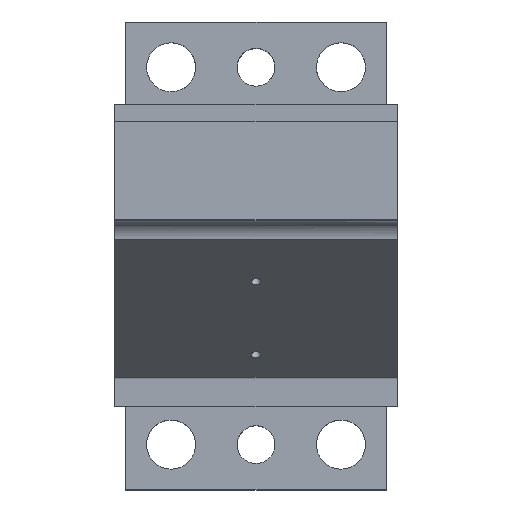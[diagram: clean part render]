
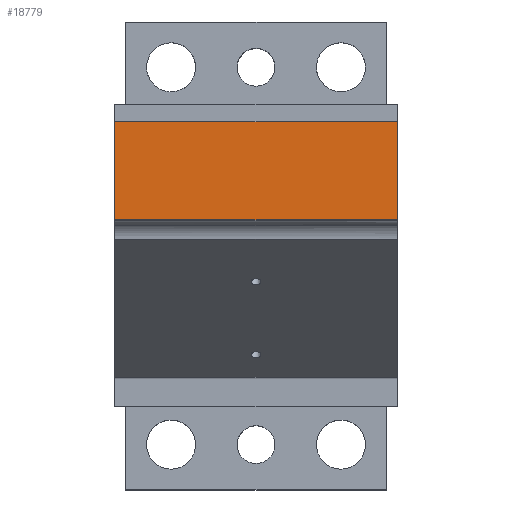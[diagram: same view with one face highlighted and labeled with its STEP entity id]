
A CAD part, top view. The second image highlights one B-rep face of the part: STEP entity #18779.
In plain terms, the highlighted planar face has unit normal (0, 0, 1).
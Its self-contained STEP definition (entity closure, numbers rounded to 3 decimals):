
#147 = CARTESIAN_POINT ( 'NONE',  ( -37.5, 13., 65. ) ) ;
#1081 = EDGE_CURVE ( 'NONE', #22080, #19552, #18876, .T. ) ;
#1837 = EDGE_LOOP ( 'NONE', ( #19668, #4192, #13400, #13543 ) ) ;
#1915 = AXIS2_PLACEMENT_3D ( 'NONE', #4406, #7557, #16092 ) ;
#2763 = LINE ( 'NONE', #9448, #20453 ) ;
#3823 = DIRECTION ( 'NONE',  ( 0., 1., 0. ) ) ;
#3830 = EDGE_CURVE ( 'NONE', #18903, #16609, #2763, .T. ) ;
#4192 = ORIENTED_EDGE ( 'NONE', *, *, #1081, .F. ) ;
#4406 = CARTESIAN_POINT ( 'NONE',  ( -41.25, -1.3, 65. ) ) ;
#4531 = CARTESIAN_POINT ( 'NONE',  ( 0., 26., 65. ) ) ;
#6141 = VECTOR ( 'NONE', #19878, 1000. ) ;
#6306 = CARTESIAN_POINT ( 'NONE',  ( -37.5, 26., 65. ) ) ;
#7557 = DIRECTION ( 'NONE',  ( 0., 0., 1. ) ) ;
#7737 = DIRECTION ( 'NONE',  ( -1., 0., 0. ) ) ;
#7804 = DIRECTION ( 'NONE',  ( 0., 1., 0. ) ) ;
#8555 = CARTESIAN_POINT ( 'NONE',  ( -37.5, 0., 65. ) ) ;
#9119 = EDGE_CURVE ( 'NONE', #22080, #18903, #21934, .T. ) ;
#9432 = LINE ( 'NONE', #4531, #16412 ) ;
#9448 = CARTESIAN_POINT ( 'NONE',  ( 37.5, 13., 65. ) ) ;
#9478 = PLANE ( 'NONE',  #1915 ) ;
#13084 = CARTESIAN_POINT ( 'NONE',  ( 0., 0., 65. ) ) ;
#13125 = EDGE_CURVE ( 'NONE', #16609, #19552, #9432, .T. ) ;
#13385 = FACE_OUTER_BOUND ( 'NONE', #1837, .T. ) ;
#13400 = ORIENTED_EDGE ( 'NONE', *, *, #9119, .T. ) ;
#13543 = ORIENTED_EDGE ( 'NONE', *, *, #3830, .T. ) ;
#16092 = DIRECTION ( 'NONE',  ( 1., 0., 0. ) ) ;
#16412 = VECTOR ( 'NONE', #7737, 1000. ) ;
#16609 = VERTEX_POINT ( 'NONE', #20796 ) ;
#18779 = ADVANCED_FACE ( 'NONE', ( #13385 ), #9478, .T. ) ;
#18876 = LINE ( 'NONE', #147, #21813 ) ;
#18903 = VERTEX_POINT ( 'NONE', #19853 ) ;
#19552 = VERTEX_POINT ( 'NONE', #6306 ) ;
#19668 = ORIENTED_EDGE ( 'NONE', *, *, #13125, .T. ) ;
#19853 = CARTESIAN_POINT ( 'NONE',  ( 37.5, 0., 65. ) ) ;
#19878 = DIRECTION ( 'NONE',  ( 1., 0., 0. ) ) ;
#20453 = VECTOR ( 'NONE', #7804, 1000. ) ;
#20796 = CARTESIAN_POINT ( 'NONE',  ( 37.5, 26., 65. ) ) ;
#21813 = VECTOR ( 'NONE', #3823, 1000. ) ;
#21934 = LINE ( 'NONE', #13084, #6141 ) ;
#22080 = VERTEX_POINT ( 'NONE', #8555 ) ;
